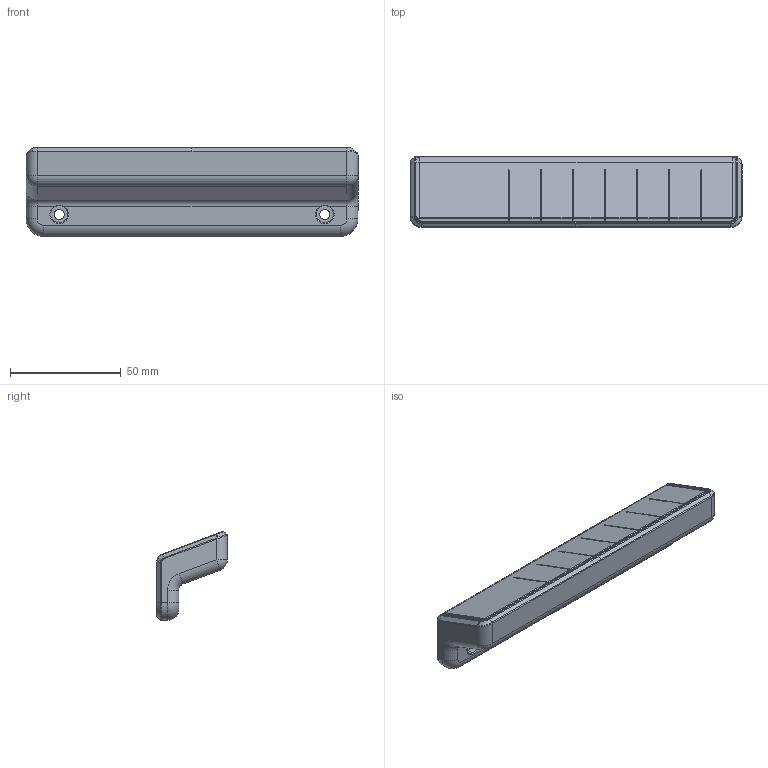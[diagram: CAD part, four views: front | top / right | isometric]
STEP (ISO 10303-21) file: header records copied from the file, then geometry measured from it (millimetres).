
FILE_DESCRIPTION (( 'STEP AP214' ), '1' );
FILE_NAME ('TDH6¹êÅé¹Ï.STEP', '2015-02-03T06:18:53', ( '' ), ( '' ), 'SwSTEP 2.0', 'SolidWorks 2010', '' );
FILE_SCHEMA (( 'AUTOMOTIVE_DESIGN' ));
Length unit declared in the file: millimetre
Products named in the file (1): TDH6實體圖
Bounding box: 150 x 32 x 40.18 mm (x, y, z)
Volume: 98277.4 mm3; surface area: 38003 mm2
Topology: 6 solids, 6 shells, 368 faces, 939 edges, 585 vertices
Faces by surface type: plane 128, cylinder 93, bspline 63, cone 40, torus 34, sphere 10
Entity records: 19195 total; most frequent: CARTESIAN_POINT 6480, ORIENTED_EDGE 1874, DIRECTION 1692, EDGE_CURVE 937, AXIS2_PLACEMENT_3D 649, VERTEX_POINT 585, VECTOR 394, LINE 394
